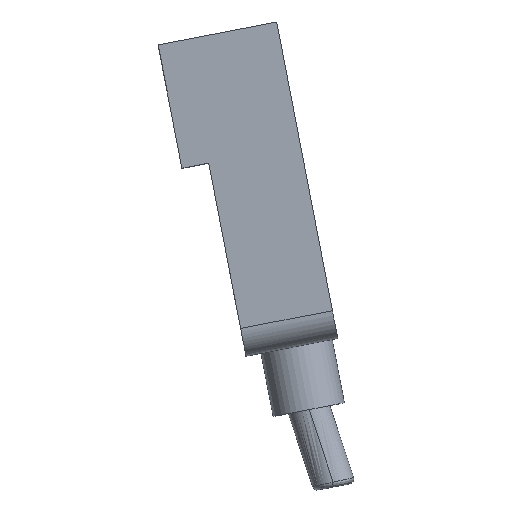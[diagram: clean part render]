
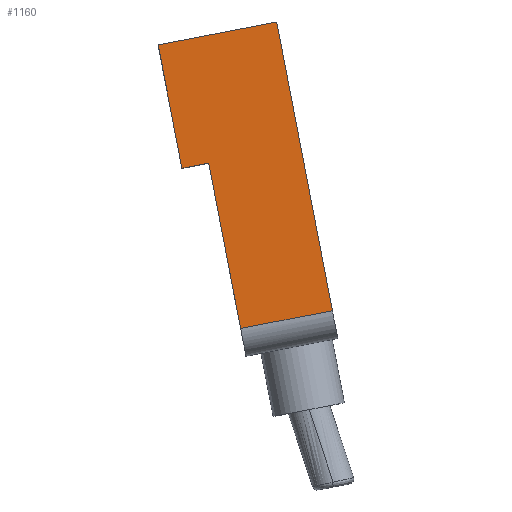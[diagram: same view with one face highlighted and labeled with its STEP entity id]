
A CAD part, top view. The second image highlights one B-rep face of the part: STEP entity #1160.
In plain terms, the highlighted planar face has unit normal (0, 0, 1).
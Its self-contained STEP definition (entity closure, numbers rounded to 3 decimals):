
#2 = DIRECTION ( 'NONE',  ( 0., 0., -1. ) ) ;
#29 = CARTESIAN_POINT ( 'NONE',  ( 276.829, 41.991, -53.9 ) ) ;
#51 = CARTESIAN_POINT ( 'NONE',  ( 275.649, 49.707, -53.9 ) ) ;
#90 = CARTESIAN_POINT ( 'NONE',  ( 275.16, 41.67, -53.9 ) ) ;
#96 = CARTESIAN_POINT ( 'NONE',  ( 285.36, 28.358, -53.9 ) ) ;
#149 = VECTOR ( 'NONE', #693, 1000. ) ;
#172 = VECTOR ( 'NONE', #491, 1000. ) ;
#200 = CARTESIAN_POINT ( 'NONE',  ( 277.995, 26.94, -53.9 ) ) ;
#208 = CARTESIAN_POINT ( 'NONE',  ( 279.099, 31.786, -53.9 ) ) ;
#215 = ORIENTED_EDGE ( 'NONE', *, *, #502, .F. ) ;
#228 = B_SPLINE_CURVE_WITH_KNOTS ( 'NONE', 3,
 ( #619, #659, #487, #51, #456, #466, #836 ),
 .UNSPECIFIED., .F., .F.,
 ( 4, 3, 4 ),
 ( -0.002, 0., 0.005 ),
 .UNSPECIFIED. ) ;
#245 = CARTESIAN_POINT ( 'NONE',  ( 284.5, 32.826, -53.9 ) ) ;
#289 = ORIENTED_EDGE ( 'NONE', *, *, #1028, .F. ) ;
#297 = CARTESIAN_POINT ( 'NONE',  ( 281.05, 50.747, -53.9 ) ) ;
#298 = CARTESIAN_POINT ( 'NONE',  ( 279.959, 27.318, -53.9 ) ) ;
#303 = CARTESIAN_POINT ( 'NONE',  ( 278.805, 31.73, -53.9 ) ) ;
#366 = B_SPLINE_CURVE_WITH_KNOTS ( 'NONE', 3,
 ( #1165, #1121, #1068, #891, #862, #800, #782 ),
 .UNSPECIFIED., .F., .F.,
 ( 4, 3, 4 ),
 ( 0.007, 0.008, 0.009 ),
 .UNSPECIFIED. ) ;
#389 = EDGE_CURVE ( 'NONE', #1231, #861, #702, .T. ) ;
#456 = CARTESIAN_POINT ( 'NONE',  ( 277.449, 50.054, -53.9 ) ) ;
#457 = LINE ( 'NONE', #96, #895 ) ;
#459 = EDGE_CURVE ( 'NONE', #861, #879, #457, .T. ) ;
#460 = VERTEX_POINT ( 'NONE', #29 ) ;
#466 = CARTESIAN_POINT ( 'NONE',  ( 279.25, 50.4, -53.9 ) ) ;
#471 = ORIENTED_EDGE ( 'NONE', *, *, #459, .T. ) ;
#487 = CARTESIAN_POINT ( 'NONE',  ( 274.994, 49.581, -53.9 ) ) ;
#491 = DIRECTION ( 'NONE',  ( 0.982, 0.189, 0. ) ) ;
#502 = EDGE_CURVE ( 'NONE', #1231, #460, #694, .T. ) ;
#506 = DIRECTION ( 'NONE',  ( -0.189, 0.982, 0. ) ) ;
#613 = CARTESIAN_POINT ( 'NONE',  ( 278.805, 31.73, -53.9 ) ) ;
#619 = CARTESIAN_POINT ( 'NONE',  ( 273.685, 49.329, -53.9 ) ) ;
#628 = ORIENTED_EDGE ( 'NONE', *, *, #389, .T. ) ;
#647 = EDGE_CURVE ( 'NONE', #1151, #879, #228, .T. ) ;
#659 = CARTESIAN_POINT ( 'NONE',  ( 274.34, 49.455, -53.9 ) ) ;
#693 = DIRECTION ( 'NONE',  ( -0.189, 0.982, 0. ) ) ;
#694 = B_SPLINE_CURVE_WITH_KNOTS ( 'NONE', 3,
 ( #613, #1182, #865, #799, #769, #763, #749 ),
 .UNSPECIFIED., .F., .F.,
 ( 4, 3, 4 ),
 ( 0.032, 0.038, 0.043 ),
 .UNSPECIFIED. ) ;
#702 = LINE ( 'NONE', #208, #172 ) ;
#749 = CARTESIAN_POINT ( 'NONE',  ( 276.829, 41.991, -53.9 ) ) ;
#763 = CARTESIAN_POINT ( 'NONE',  ( 277.158, 40.281, -53.9 ) ) ;
#769 = CARTESIAN_POINT ( 'NONE',  ( 277.488, 38.571, -53.9 ) ) ;
#777 = DIRECTION ( 'NONE',  ( 0.982, 0.189, 0. ) ) ;
#782 = CARTESIAN_POINT ( 'NONE',  ( 276.829, 41.991, -53.9 ) ) ;
#799 = CARTESIAN_POINT ( 'NONE',  ( 277.817, 36.86, -53.9 ) ) ;
#800 = CARTESIAN_POINT ( 'NONE',  ( 276.649, 41.957, -53.9 ) ) ;
#821 = VERTEX_POINT ( 'NONE', #90 ) ;
#828 = EDGE_CURVE ( 'NONE', #821, #460, #366, .T. ) ;
#836 = CARTESIAN_POINT ( 'NONE',  ( 281.05, 50.747, -53.9 ) ) ;
#861 = VERTEX_POINT ( 'NONE', #245 ) ;
#862 = CARTESIAN_POINT ( 'NONE',  ( 276.469, 41.922, -53.9 ) ) ;
#865 = CARTESIAN_POINT ( 'NONE',  ( 278.146, 35.15, -53.9 ) ) ;
#879 = VERTEX_POINT ( 'NONE', #297 ) ;
#891 = CARTESIAN_POINT ( 'NONE',  ( 276.289, 41.887, -53.9 ) ) ;
#895 = VECTOR ( 'NONE', #506, 1000. ) ;
#898 = LINE ( 'NONE', #200, #149 ) ;
#1025 = ORIENTED_EDGE ( 'NONE', *, *, #647, .F. ) ;
#1028 = EDGE_CURVE ( 'NONE', #821, #1151, #898, .T. ) ;
#1068 = CARTESIAN_POINT ( 'NONE',  ( 275.913, 41.815, -53.9 ) ) ;
#1077 = EDGE_LOOP ( 'NONE', ( #471, #1025, #289, #1113, #215, #628 ) ) ;
#1100 = FACE_OUTER_BOUND ( 'NONE', #1077, .T. ) ;
#1113 = ORIENTED_EDGE ( 'NONE', *, *, #828, .T. ) ;
#1121 = CARTESIAN_POINT ( 'NONE',  ( 275.536, 41.742, -53.9 ) ) ;
#1146 = PLANE ( 'NONE',  #1239 ) ;
#1151 = VERTEX_POINT ( 'NONE', #1241 ) ;
#1160 = ADVANCED_FACE ( 'NONE', ( #1100 ), #1146, .F. ) ;
#1165 = CARTESIAN_POINT ( 'NONE',  ( 275.16, 41.67, -53.9 ) ) ;
#1182 = CARTESIAN_POINT ( 'NONE',  ( 278.475, 33.44, -53.9 ) ) ;
#1231 = VERTEX_POINT ( 'NONE', #303 ) ;
#1239 = AXIS2_PLACEMENT_3D ( 'NONE', #298, #2, #777 ) ;
#1241 = CARTESIAN_POINT ( 'NONE',  ( 273.685, 49.329, -53.9 ) ) ;
